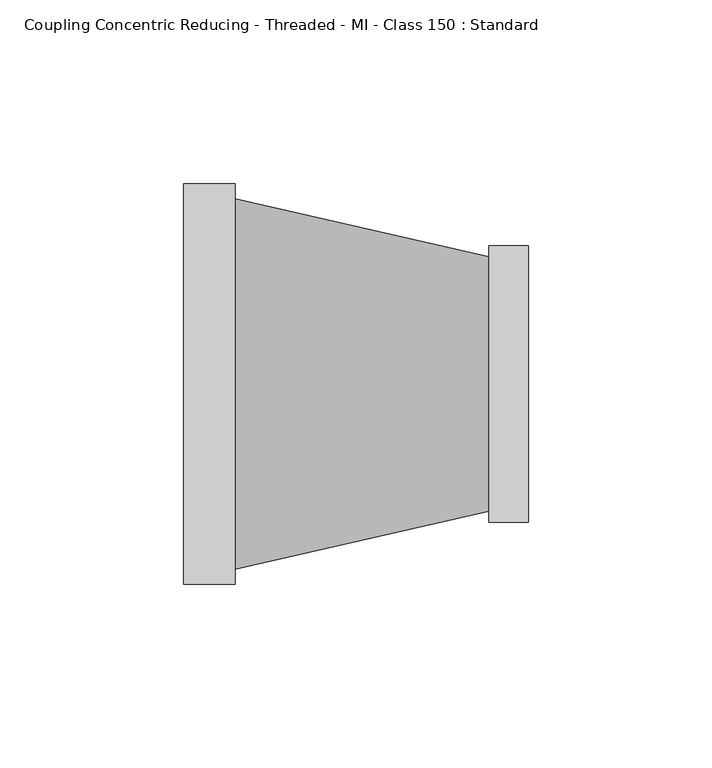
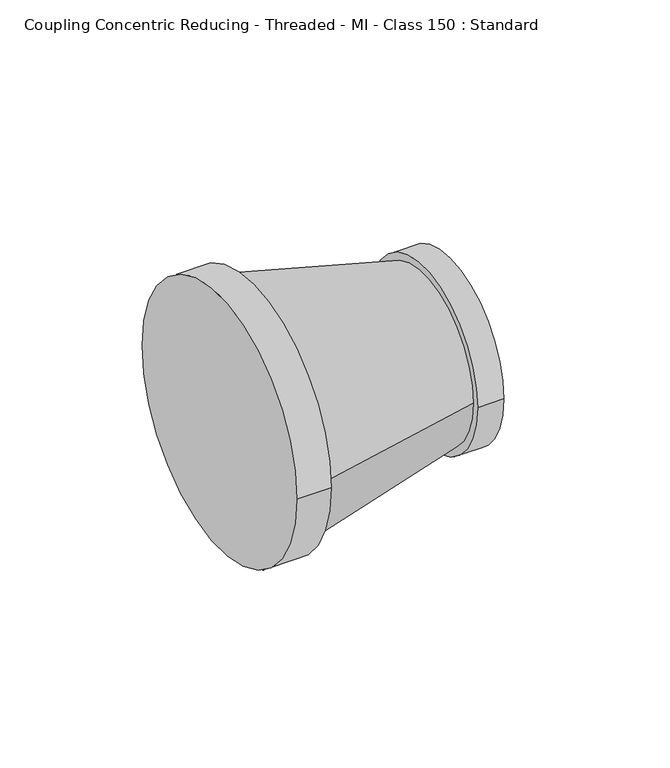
"""IFC4 building model written with IfcOpenShell, lengths in millimetres: pipe fitting geometry, Coupling Concentric Reducing - Threaded - MI - Class 150 : Standard."""

from ifc_helpers import new_model, si_unit, frame, origin, place, context, project, spatial, polyline, circle_curve, source, transform, mapped, element, save
from ifc_brep_helpers import plane_surface, cylinder_surface, revolved_surface, advanced_brep


def coupling_concentric_reducing_threaded_mi_class_150_standard_7db7402d(model_context):
    return source(origin(), model_context, "Body", "AdvancedBrep", [
        advanced_brep(
        [(13.9, 50.32, 0.0), (83.0, 34.54, 0.0), (83.0, -34.54, 0.0), (13.9, -50.32, 0.0), (93.7, -37.65, 0.0), (93.7, 37.65, 0.0), (83.0, -37.65, 0.0), (83.0, 37.65, 0.0), (13.9, -54.4, 0.0), (13.9, 54.4, 0.0), (0.0, -54.4, 0.0), (0.0, 54.4, 0.0)],
        [
            (0, 1),
            (1, 2, circle_curve(frame((83.0, 0.0, 0.0), z_axis=(-1.0, 0.0, 0.0), x_axis=(0.0, -1.0, 0.0)), 34.54)),
            (2, 3),
            (3, 0, circle_curve(frame((13.9, 0.0, 0.0), z_axis=(1.0, 0.0, 0.0), x_axis=(0.0, -1.0, 0.0)), 50.32)),
            (0, 3, circle_curve(frame((13.9, 0.0, 0.0), z_axis=(1.0, 0.0, 0.0), x_axis=(0.0, 1.0, 0.0)), 50.32)),
            (2, 1, circle_curve(frame((83.0, 0.0, 0.0), z_axis=(-1.0, 0.0, 0.0), x_axis=(0.0, 1.0, 0.0)), 34.54)),
            (4, 5, circle_curve(frame((93.7, 0.0, 0.0), z_axis=(1.0, 0.0, 0.0), x_axis=(0.0, 1.0, 0.0)), 37.65)),
            (5, 4, circle_curve(frame((93.7, 0.0, 0.0), z_axis=(1.0, 0.0, 0.0), x_axis=(0.0, 1.0, 0.0)), 37.65)),
            (6, 7, circle_curve(frame((83.0, 0.0, 0.0), z_axis=(-1.0, 0.0, 0.0), x_axis=(0.0, 1.0, 0.0)), 37.65)),
            (7, 6, circle_curve(frame((83.0, 0.0, 0.0), z_axis=(-1.0, 0.0, 0.0), x_axis=(0.0, 1.0, 0.0)), 37.65)),
            (4, 6),
            (7, 5),
            (8, 9, circle_curve(frame((13.9, 0.0, 0.0), z_axis=(1.0, 0.0, 0.0), x_axis=(0.0, 1.0, 0.0)), 54.4)),
            (9, 8, circle_curve(frame((13.9, 0.0, 0.0), z_axis=(1.0, 0.0, 0.0), x_axis=(0.0, 1.0, 0.0)), 54.4)),
            (10, 11, circle_curve(frame((0.0, 0.0, 0.0), z_axis=(-1.0, 0.0, 0.0), x_axis=(0.0, 1.0, 0.0)), 54.4)),
            (11, 10, circle_curve(frame((0.0, 0.0, 0.0), z_axis=(-1.0, 0.0, 0.0), x_axis=(0.0, 1.0, 0.0)), 54.4)),
            (8, 10),
            (11, 9),
        ],
        [
            revolved_surface(polyline([(83.0, 34.5399999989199, 0.0), (13.900000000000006, 50.32, 0.0)]), (234.2493029, 0.0, 0.0), (-1.0, 0.0, 0.0)),
            plane_surface(frame((93.7, 37.65, 0.0), z_axis=(1.0, 0.0, 0.0), x_axis=(0.0, 0.0, 1.0))),
            plane_surface(frame((83.0, 37.65, 0.0), z_axis=(-1.0, 0.0, 0.0), x_axis=(0.0, 0.0, -1.0))),
            cylinder_surface(frame((83.0, 0.0, 0.0), z_axis=(1.0, 0.0, 0.0), x_axis=(0.0, 1.0, 0.0)), 37.65),
            plane_surface(frame((13.9, 54.4, 0.0), z_axis=(1.0, 0.0, 0.0), x_axis=(0.0, 0.0, 1.0))),
            plane_surface(frame((0.0, 54.4, 0.0), z_axis=(-1.0, 0.0, 0.0), x_axis=(0.0, 0.0, -1.0))),
            cylinder_surface(frame((0.0, 0.0, 0.0), z_axis=(1.0, 0.0, 0.0), x_axis=(0.0, 1.0, 0.0)), 54.4),
        ],
        [
            (0, [[1, 2, 3, 4]]),
            (0, [[-1, 5, -3, 6]]),
            (1, [[7, 8]]),
            (2, [[9, 10], [-2, -6]]),
            (3, [[-7, 11, -10, 12]]),
            (3, [[-8, -12, -9, -11]]),
            (4, [[13, 14], [-4, -5]]),
            (5, [[15, 16]]),
            (6, [[-13, 17, -16, 18]]),
            (6, [[-14, -18, -15, -17]]),
        ],
    ),
    ])


if __name__ == "__main__":
    model = new_model("IFC4")
    model_context = context("Model", 3, world=origin())
    ifc_project = project(units=[si_unit("LENGTHUNIT", "METRE", prefix="MILLI")], contexts=[model_context])
    site = spatial("IfcSite", under=ifc_project)
    building = spatial("IfcBuilding", under=site)
    placement = place(None, origin())
    coupling_concentric_reducing_threaded_mi_class_150_standard_shape = coupling_concentric_reducing_threaded_mi_class_150_standard_7db7402d(model_context)
    element("IfcPipeFitting", 1, ObjectType="Coupling Concentric Reducing - Threaded - MI - Class 150 : Standard", at=placement, inside=building, context=model_context, shape_type="MappedRepresentation", body=[
        mapped(coupling_concentric_reducing_threaded_mi_class_150_standard_shape, transform((0.0, 0.0, 0.0), x_axis=(1.0, 0.0, 0.0), y_axis=(0.0, 1.0, 0.0), z_axis=(0.0, 0.0, 1.0))),
    ])
    save(model, "model.ifc")
